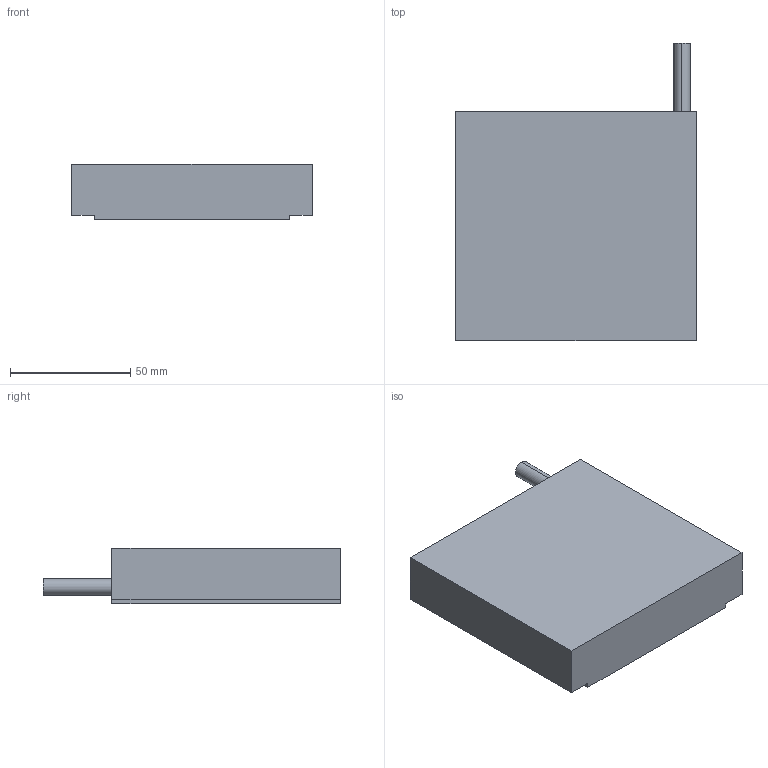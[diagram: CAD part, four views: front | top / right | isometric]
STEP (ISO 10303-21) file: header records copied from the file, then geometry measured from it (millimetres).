
FILE_DESCRIPTION (( 'STEP AP214' ), '1' );
FILE_NAME ('FL-100-95.STEP', '2021-04-27T03:53:15', ( '' ), ( '' ), 'SwSTEP 2.0', 'SolidWorks 2016', '' );
FILE_SCHEMA (( 'AUTOMOTIVE_DESIGN' ));
Length unit declared in the file: millimetre
Products named in the file (1): FL-100-95
Bounding box: 100 x 123.5 x 23.2 mm (x, y, z)
Volume: 217549 mm3; surface area: 29134.5 mm2
Topology: 1 solids, 1 shells, 85 faces, 210 edges, 110 vertices
Faces by surface type: cylinder 38, cone 36, plane 11
Entity records: 2318 total; most frequent: DIRECTION 422, CARTESIAN_POINT 370, ORIENTED_EDGE 348, EDGE_CURVE 174, AXIS2_PLACEMENT_3D 162, VERTEX_POINT 110, EDGE_LOOP 104, LINE 98
